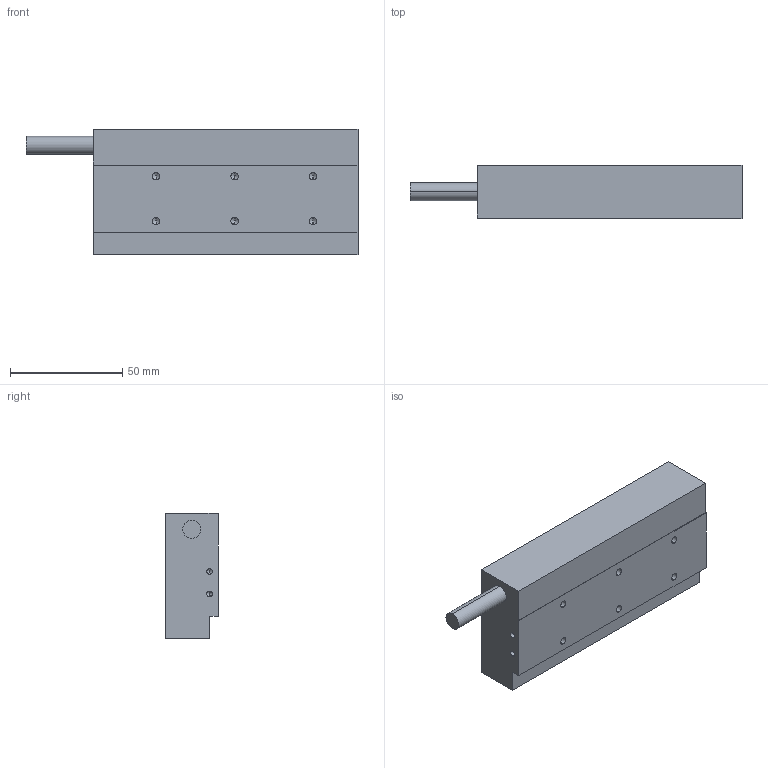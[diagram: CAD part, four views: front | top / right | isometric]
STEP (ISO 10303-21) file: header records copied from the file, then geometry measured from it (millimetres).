
FILE_DESCRIPTION (( 'STEP AP214' ), '1' );
FILE_NAME ('MK11雄赽.STEP', '2025-09-05T08:55:03', ( '' ), ( '' ), 'SwSTEP 2.0', 'SolidWorks 2016', '' );
FILE_SCHEMA (( 'AUTOMOTIVE_DESIGN' ));
Length unit declared in the file: millimetre
Products named in the file (1): MK11雄赽
Bounding box: 148 x 23.7 x 56 mm (x, y, z)
Volume: 152619 mm3; surface area: 22632.4 mm2
Topology: 1 solids, 1 shells, 45 faces, 110 edges, 60 vertices
Faces by surface type: cylinder 18, cone 16, plane 11
Entity records: 1487 total; most frequent: DIRECTION 222, CARTESIAN_POINT 200, ORIENTED_EDGE 188, EDGE_CURVE 94, AXIS2_PLACEMENT_3D 82, VERTEX_POINT 60, VECTOR 58, LINE 58
